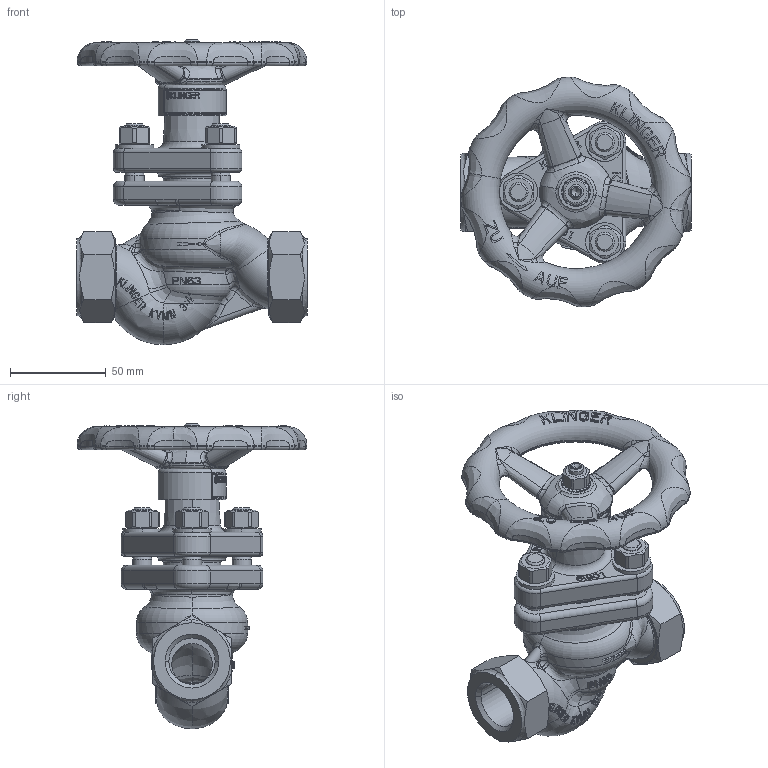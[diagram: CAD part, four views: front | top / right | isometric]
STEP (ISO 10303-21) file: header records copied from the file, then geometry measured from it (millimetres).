
FILE_DESCRIPTION((''),'2;1');
FILE_NAME('KVMN-G34S-----P063PGG_SW0001','2015-07-08T',('jeitlers'),('RAND'),'PRO/ENGINEER BY PARAMETRIC TECHNOLOGY CORPORATION, 2013410','PRO/ENGINEER BY PARAMETRIC TECHNOLOGY CORPORATION, 2013410','');
FILE_SCHEMA(('CONFIG_CONTROL_DESIGN'));
Products named in the file (1): KVMN-G34S-----P063PGG_SW0001
Bounding box: 120 x 119.87 x 159.25 mm (x, y, z)
Volume: 305723.8 mm3; surface area: 108061.7 mm2
Topology: 3 solids, 3 shells, 2649 faces, 7109 edges, 4560 vertices
Faces by surface type: plane 1663, bspline 397, cylinder 302, torus 148, cone 117, extrusion 16, sphere 6
Entity records: 145883 total; most frequent: CARTESIAN_POINT 85151, ORIENTED_EDGE 14210, DIRECTION 10209, EDGE_CURVE 7105, VERTEX_POINT 4560, AXIS2_PLACEMENT_3D 3415, VECTOR 3379, LINE 3363
